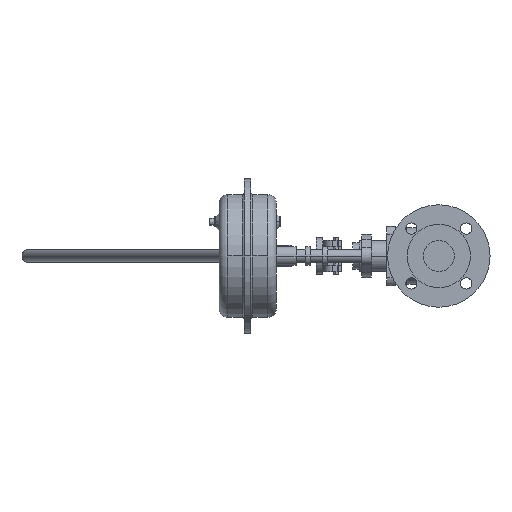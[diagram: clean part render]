
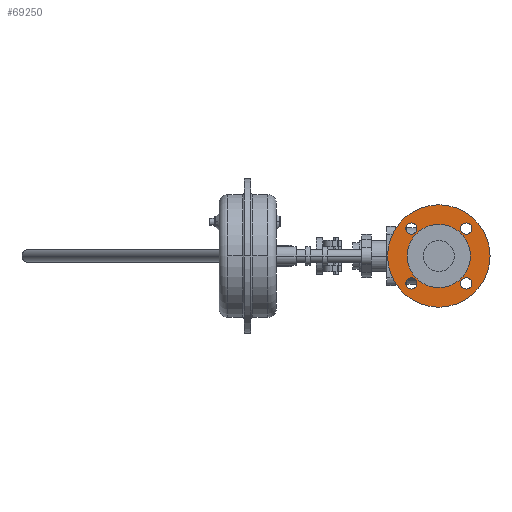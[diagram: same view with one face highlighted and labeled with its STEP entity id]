
A CAD part, left-side view. The second image highlights one B-rep face of the part: STEP entity #69250.
In plain terms, the highlighted planar face has unit normal (-1, 0, 0).
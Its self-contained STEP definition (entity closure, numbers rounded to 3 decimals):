
#3450=CARTESIAN_POINT('',(3.,0.,82.5));
#3460=VERTEX_POINT('',#3450);
#3510=CARTESIAN_POINT('',(3.,0.,0.));
#3520=DIRECTION('',(1.,0.,0.));
#3530=DIRECTION('',(0.,0.,-1.));
#3540=AXIS2_PLACEMENT_3D('',#3510,#3520,#3530);
#3550=CIRCLE('',#3540,82.5);
#3560=CARTESIAN_POINT('',(3.,0.,-82.5));
#3570=VERTEX_POINT('',#3560);
#3580=EDGE_CURVE('',#3570,#3460,#3550,.T.);
#3940=CARTESIAN_POINT('',(3.,-44.194,-53.194));
#3950=VERTEX_POINT('',#3940);
#4130=CARTESIAN_POINT('',(3.,-44.194,-35.194));
#4140=VERTEX_POINT('',#4130);
#4170=CARTESIAN_POINT('',(3.,-44.194,-44.194));
#4180=DIRECTION('',(-1.,0.,0.));
#4190=DIRECTION('',(0.,0.,-1.));
#4200=AXIS2_PLACEMENT_3D('',#4170,#4180,#4190);
#4210=CIRCLE('',#4200,9.);
#4220=EDGE_CURVE('',#3950,#4140,#4210,.T.);
#4430=CARTESIAN_POINT('',(3.,44.194,-35.194));
#4440=VERTEX_POINT('',#4430);
#4620=CARTESIAN_POINT('',(3.,44.194,-53.194));
#4630=VERTEX_POINT('',#4620);
#4660=CARTESIAN_POINT('',(3.,44.194,-44.194));
#4670=DIRECTION('',(-1.,0.,0.));
#4680=DIRECTION('',(0.,0.,-1.));
#4690=AXIS2_PLACEMENT_3D('',#4660,#4670,#4680);
#4700=CIRCLE('',#4690,9.);
#4710=EDGE_CURVE('',#4440,#4630,#4700,.T.);
#4920=CARTESIAN_POINT('',(3.,44.194,53.194));
#4930=VERTEX_POINT('',#4920);
#5110=CARTESIAN_POINT('',(3.,44.194,35.194));
#5120=VERTEX_POINT('',#5110);
#5150=CARTESIAN_POINT('',(3.,44.194,44.194));
#5160=DIRECTION('',(-1.,0.,0.));
#5170=DIRECTION('',(0.,0.,-1.));
#5180=AXIS2_PLACEMENT_3D('',#5150,#5160,#5170);
#5190=CIRCLE('',#5180,9.);
#5200=EDGE_CURVE('',#4930,#5120,#5190,.T.);
#5410=CARTESIAN_POINT('',(3.,-44.194,35.194));
#5420=VERTEX_POINT('',#5410);
#5600=CARTESIAN_POINT('',(3.,-44.194,53.194));
#5610=VERTEX_POINT('',#5600);
#5640=CARTESIAN_POINT('',(3.,-44.194,44.194));
#5650=DIRECTION('',(-1.,0.,0.));
#5660=DIRECTION('',(0.,0.,-1.));
#5670=AXIS2_PLACEMENT_3D('',#5640,#5650,#5660);
#5680=CIRCLE('',#5670,9.);
#5690=EDGE_CURVE('',#5420,#5610,#5680,.T.);
#5920=CARTESIAN_POINT('',(3.,-51.,0.));
#5930=VERTEX_POINT('',#5920);
#6090=CARTESIAN_POINT('',(3.,51.,0.));
#6100=VERTEX_POINT('',#6090);
#6130=CARTESIAN_POINT('',(3.,0.,0.));
#6140=DIRECTION('',(-1.,0.,0.));
#6150=DIRECTION('',(0.,1.,0.));
#6160=AXIS2_PLACEMENT_3D('',#6130,#6140,#6150);
#6170=CIRCLE('',#6160,51.);
#6180=EDGE_CURVE('',#5930,#6100,#6170,.T.);
#68900=CARTESIAN_POINT('',(3.,66.75,0.));
#68910=DIRECTION('',(1.,0.,0.));
#68920=DIRECTION('',(0.,-1.,0.));
#68930=AXIS2_PLACEMENT_3D('',#68900,#68910,#68920);
#68940=PLANE('',#68930);
#68950=EDGE_CURVE('',#6100,#5930,#6170,.T.);
#68960=ORIENTED_EDGE('',*,*,#68950,.F.);
#68970=ORIENTED_EDGE('',*,*,#6180,.F.);
#68980=EDGE_LOOP('',(#68970,#68960));
#68990=FACE_BOUND('',#68980,.T.);
#69000=ORIENTED_EDGE('',*,*,#3580,.F.);
#69010=EDGE_CURVE('',#3460,#3570,#3550,.T.);
#69020=ORIENTED_EDGE('',*,*,#69010,.F.);
#69030=EDGE_LOOP('',(#69020,#69000));
#69040=FACE_OUTER_BOUND('',#69030,.T.);
#69050=EDGE_CURVE('',#4140,#3950,#4210,.T.);
#69060=ORIENTED_EDGE('',*,*,#69050,.F.);
#69070=ORIENTED_EDGE('',*,*,#4220,.F.);
#69080=EDGE_LOOP('',(#69070,#69060));
#69090=FACE_BOUND('',#69080,.T.);
#69100=EDGE_CURVE('',#4630,#4440,#4700,.T.);
#69110=ORIENTED_EDGE('',*,*,#69100,.F.);
#69120=ORIENTED_EDGE('',*,*,#4710,.F.);
#69130=EDGE_LOOP('',(#69120,#69110));
#69140=FACE_BOUND('',#69130,.T.);
#69150=EDGE_CURVE('',#5120,#4930,#5190,.T.);
#69160=ORIENTED_EDGE('',*,*,#69150,.F.);
#69170=ORIENTED_EDGE('',*,*,#5200,.F.);
#69180=EDGE_LOOP('',(#69170,#69160));
#69190=FACE_BOUND('',#69180,.T.);
#69200=EDGE_CURVE('',#5610,#5420,#5680,.T.);
#69210=ORIENTED_EDGE('',*,*,#69200,.F.);
#69220=ORIENTED_EDGE('',*,*,#5690,.F.);
#69230=EDGE_LOOP('',(#69220,#69210));
#69240=FACE_BOUND('',#69230,.T.);
#69250=ADVANCED_FACE('',(#68990,#69040,#69090,#69140,#69190,#69240),
#68940,.F.);
